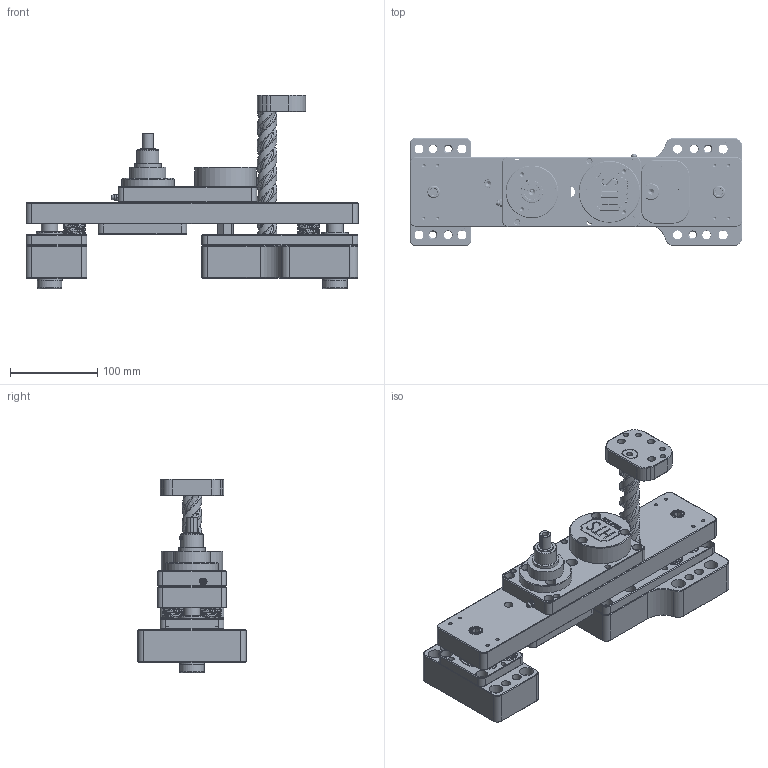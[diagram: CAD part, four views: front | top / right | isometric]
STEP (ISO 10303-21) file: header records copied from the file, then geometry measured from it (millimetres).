
FILE_DESCRIPTION(/* description */ ('Unknown'),/* implementation_level */ '2;1');
FILE_NAME(/* name */ '3100-3 in strk',/* time_stamp */ '2018-07-24T14:13:18-04:00',/* author */ ('Unknown'),/* organization */ ('Unknown'),/* preprocessor_version */ 'ST-DEVELOPER v16.7',/* originating_system */ 'DEX',/* authorisation */ $);
FILE_SCHEMA (('AUTOMOTIVE_DESIGN {1 0 10303 214 3 1 1}'));
Products named in the file (28): 3100-000 new std; 3107C-000C; Tap 6-32; 3118-000; 3126-001; 3127-001; 3022-632; 3107A-000C; 3107B-000C; 3129-200; 3012-000; 3147-000; 3106A-000-STD; 3106B-000-STD; 3011-003FA; 3025-000; 3020-032; 3008-000; 3136-168; 3017-000; 3137A-000-STD; 3137B-000-STD; 3121-000; 3138B-075; 3_8-16X750_SHCS; BUSHING-BU-_75ID-1_985LONG_BUSH; 3138-300; 3119-000
Assembly tree (35 placements, depth 2):
  3100-000 new std
    3107C-000C
    Tap 6-32
    3118-000
    3126-001
    3127-001
    3022-632
    3107A-000C
    3107B-000C
    3129-200  x4
    3012-000
    3147-000
    3106A-000-STD
    3106B-000-STD
    3011-003FA
    3025-000
    3020-032
    3008-000
    3136-168
    3017-000  x2
    3137A-000-STD
    3137B-000-STD
    3121-000
    3138B-075  x2
    3_8-16X750_SHCS  x2
    BUSHING-BU-_75ID-1_985LONG_BUSH  x2
    3138-300  x2
    3119-000
Bounding box: 380.37 x 123.83 x 221.87 mm (x, y, z)
Volume: 2279000.5 mm3; surface area: 543739.6 mm2
Topology: 35 solids, 35 shells, 1434 faces, 3815 edges, 2548 vertices
Faces by surface type: plane 563, cylinder 514, cone 228, bspline 78, torus 47, sphere 4
Full cylindrical faces by diameter (mm): 1.587 x4, 1.981 x4, 2.769 x1, 3.175 x1, 3.454 x6, 3.551 x6, 3.581 x1, 3.797 x8, 4.166 x5, 4.915 x1, 5.105 x8, 5.156 x12, 5.954 x2, 6.35 x25, 6.528 x12, 7.137 x1, 7.142 x9, 7.144 x9, 7.849 x1, 7.938 x18, 8.73 x1, 8.731 x3, 8.733 x9, 8.763 x1, 9.058 x1, 9.525 x10, 10.312 x4, 10.317 x18, 11.113 x14, 11.824 x1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
Entity records: 72707 total; most frequent: CARTESIAN_POINT 40351, DIRECTION 5122, ORIENTED_EDGE 4746, EDGE_CURVE 2373, AXIS2_PLACEMENT_3D 2069, FACE_BOUND 1895, EDGE_LOOP 1866, VERTEX_POINT 1778
